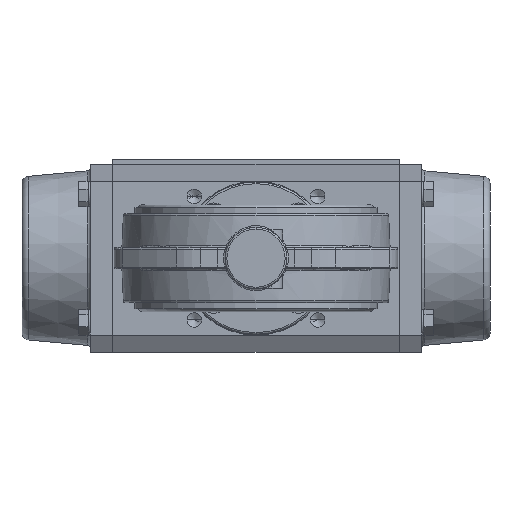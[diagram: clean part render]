
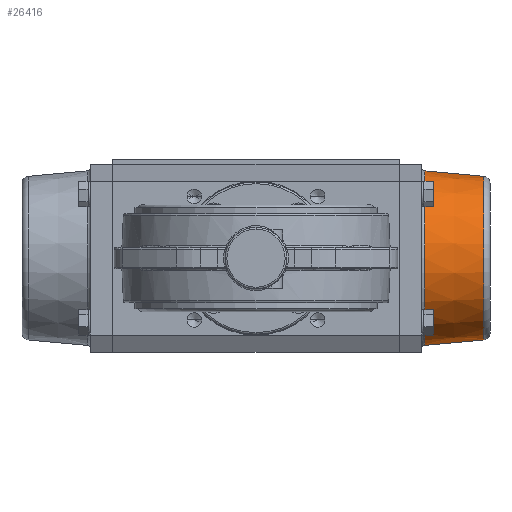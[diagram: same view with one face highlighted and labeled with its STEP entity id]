
A CAD part, front view. The second image highlights one B-rep face of the part: STEP entity #26416.
In plain terms, the highlighted conical face has half-angle 5.25 degrees and reference radius 51.008 mm.
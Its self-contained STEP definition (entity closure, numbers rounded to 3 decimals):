
#951 = EDGE_LOOP ( 'NONE', ( #24720, #11550, #12142, #3508 ) ) ;
#2151 = VERTEX_POINT ( 'NONE', #19348 ) ;
#2830 = DIRECTION ( 'NONE',  ( -1., 0., 0. ) ) ;
#2926 = DIRECTION ( 'NONE',  ( -1., 0., 0. ) ) ;
#3508 = ORIENTED_EDGE ( 'NONE', *, *, #14219, .F. ) ;
#4218 = DIRECTION ( 'NONE',  ( 0.091, 0., 0.996 ) ) ;
#5945 = LINE ( 'NONE', #50403, #15821 ) ;
#6172 = DIRECTION ( 'NONE',  ( -1., 0., 0. ) ) ;
#8145 = VERTEX_POINT ( 'NONE', #47915 ) ;
#8631 = AXIS2_PLACEMENT_3D ( 'NONE', #53254, #28035, #2830 ) ;
#9397 = CONICAL_SURFACE ( 'NONE', #54074, 51.008, 0.092 ) ;
#9682 = CARTESIAN_POINT ( 'NONE',  ( -47.834, 0., -133.116 ) ) ;
#10211 = CARTESIAN_POINT ( 'NONE',  ( 0., 0., -98.567 ) ) ;
#10512 = DIRECTION ( 'NONE',  ( -0.091, 0., 0.996 ) ) ;
#11550 = ORIENTED_EDGE ( 'NONE', *, *, #41221, .T. ) ;
#12142 = ORIENTED_EDGE ( 'NONE', *, *, #50836, .T. ) ;
#12326 = CIRCLE ( 'NONE', #8631, 51.008 ) ;
#14219 = EDGE_CURVE ( 'NONE', #18918, #8145, #42431, .T. ) ;
#14469 = DIRECTION ( 'NONE',  ( 0., 0., 1. ) ) ;
#14715 = FACE_OUTER_BOUND ( 'NONE', #951, .T. ) ;
#15821 = VECTOR ( 'NONE', #4218, 1000. ) ;
#18918 = VERTEX_POINT ( 'NONE', #9682 ) ;
#19348 = CARTESIAN_POINT ( 'NONE',  ( 47.834, 0., -133.116 ) ) ;
#22232 = CARTESIAN_POINT ( 'NONE',  ( 51.008, 0., -98.567 ) ) ;
#24720 = ORIENTED_EDGE ( 'NONE', *, *, #45783, .F. ) ;
#26416 = ADVANCED_FACE ( 'NONE', ( #14715 ), #9397, .T. ) ;
#26812 = AXIS2_PLACEMENT_3D ( 'NONE', #53342, #28119, #2926 ) ;
#28035 = DIRECTION ( 'NONE',  ( 0., 0., -1. ) ) ;
#28119 = DIRECTION ( 'NONE',  ( 0., 0., -1. ) ) ;
#29904 = VECTOR ( 'NONE', #10512, 1000. ) ;
#31503 = CARTESIAN_POINT ( 'NONE',  ( -51.008, 0., -98.567 ) ) ;
#41221 = EDGE_CURVE ( 'NONE', #2151, #45975, #5945, .T. ) ;
#42431 = LINE ( 'NONE', #31503, #29904 ) ;
#44497 = CIRCLE ( 'NONE', #26812, 47.834 ) ;
#45783 = EDGE_CURVE ( 'NONE', #2151, #18918, #44497, .T. ) ;
#45975 = VERTEX_POINT ( 'NONE', #22232 ) ;
#47915 = CARTESIAN_POINT ( 'NONE',  ( -51.008, 0., -98.567 ) ) ;
#50403 = CARTESIAN_POINT ( 'NONE',  ( 51.008, 0., -98.567 ) ) ;
#50836 = EDGE_CURVE ( 'NONE', #45975, #8145, #12326, .T. ) ;
#53254 = CARTESIAN_POINT ( 'NONE',  ( 0., 0., -98.567 ) ) ;
#53342 = CARTESIAN_POINT ( 'NONE',  ( 0., 0., -133.116 ) ) ;
#54074 = AXIS2_PLACEMENT_3D ( 'NONE', #10211, #14469, #6172 ) ;
